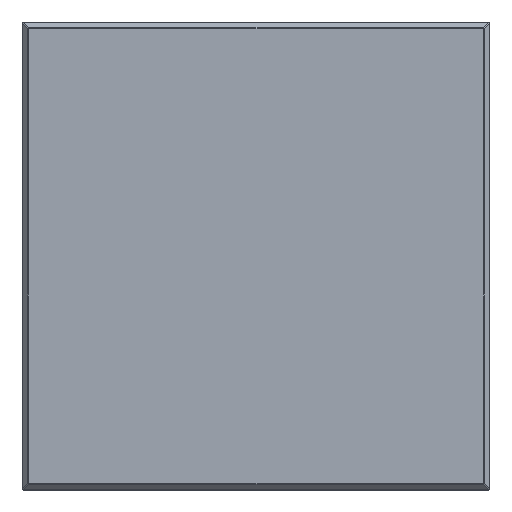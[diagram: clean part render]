
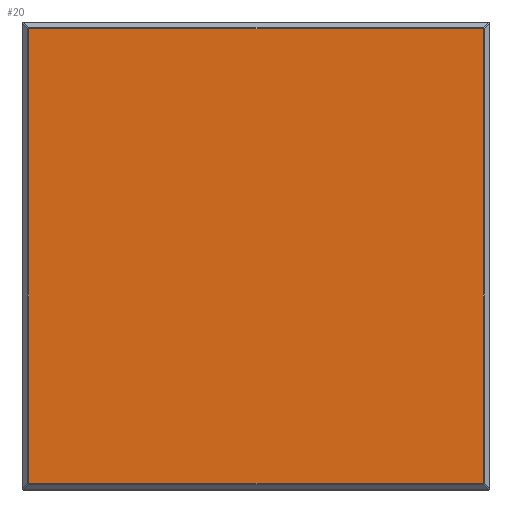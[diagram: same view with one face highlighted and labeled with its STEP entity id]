
A CAD part, top view. The second image highlights one B-rep face of the part: STEP entity #20.
In plain terms, the highlighted planar face has unit normal (0, 0, 1).
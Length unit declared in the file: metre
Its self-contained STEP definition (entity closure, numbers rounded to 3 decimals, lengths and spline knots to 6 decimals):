
#20=ADVANCED_FACE('',(#62),#506,.T.);
#62=FACE_OUTER_BOUND('',#104,.T.);
#104=EDGE_LOOP('',(#161,#162,#163,#164));
#161=ORIENTED_EDGE('',*,*,#322,.F.);
#162=ORIENTED_EDGE('',*,*,#324,.F.);
#163=ORIENTED_EDGE('',*,*,#323,.F.);
#164=ORIENTED_EDGE('',*,*,#321,.F.);
#321=EDGE_CURVE('',#449,#450,#536,.T.);
#322=EDGE_CURVE('',#451,#449,#537,.T.);
#323=EDGE_CURVE('',#450,#452,#538,.T.);
#324=EDGE_CURVE('',#452,#451,#539,.T.);
#449=VERTEX_POINT('',#894);
#450=VERTEX_POINT('',#895);
#451=VERTEX_POINT('',#896);
#452=VERTEX_POINT('',#897);
#506=PLANE('',#573);
#536=B_SPLINE_CURVE_WITH_KNOTS('',1,(#954,#955),.UNSPECIFIED.,.F.,.F.,(2,
2),(0.414214,364.585786),.UNSPECIFIED.);
#537=B_SPLINE_CURVE_WITH_KNOTS('',1,(#956,#957),.UNSPECIFIED.,.F.,.F.,(2,
2),(0.414214,364.585786),.UNSPECIFIED.);
#538=B_SPLINE_CURVE_WITH_KNOTS('',1,(#958,#959),.UNSPECIFIED.,.F.,.F.,(2,
2),(0.414214,364.585786),.UNSPECIFIED.);
#539=B_SPLINE_CURVE_WITH_KNOTS('',1,(#960,#961),.UNSPECIFIED.,.F.,.F.,(2,
2),(0.414214,364.585786),.UNSPECIFIED.);
#573=AXIS2_PLACEMENT_3D('',#607,#587,$);
#587=DIRECTION('',(0.,0.,1.));
#607=CARTESIAN_POINT('',(-187.5,-187.5,30.));
#894=CARTESIAN_POINT('',(-182.085786,-182.085786,30.));
#895=CARTESIAN_POINT('',(-182.085786,182.085786,30.));
#896=CARTESIAN_POINT('',(182.085786,-182.085786,30.));
#897=CARTESIAN_POINT('',(182.085786,182.085786,30.));
#954=CARTESIAN_POINT('',(-182.085786,-182.085786,30.));
#955=CARTESIAN_POINT('',(-182.085786,182.085786,30.));
#956=CARTESIAN_POINT('',(182.085786,-182.085786,30.));
#957=CARTESIAN_POINT('',(-182.085786,-182.085786,30.));
#958=CARTESIAN_POINT('',(-182.085786,182.085786,30.));
#959=CARTESIAN_POINT('',(182.085786,182.085786,30.));
#960=CARTESIAN_POINT('',(182.085786,182.085786,30.));
#961=CARTESIAN_POINT('',(182.085786,-182.085786,30.));
